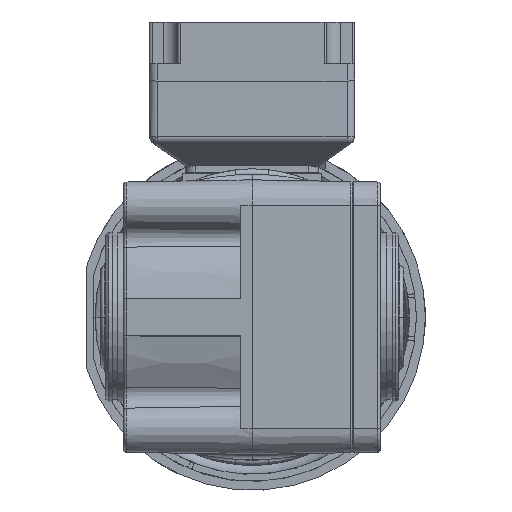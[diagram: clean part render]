
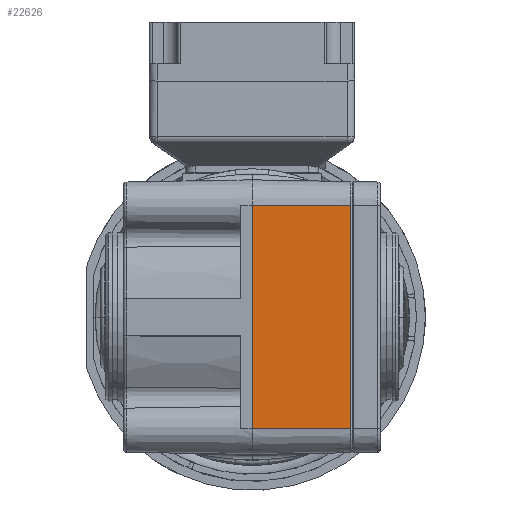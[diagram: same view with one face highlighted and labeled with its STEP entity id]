
A CAD part, front view. The second image highlights one B-rep face of the part: STEP entity #22626.
In plain terms, the highlighted planar face has unit normal (0.018, -1, 0).
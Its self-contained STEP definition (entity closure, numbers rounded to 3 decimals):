
#174 = CARTESIAN_POINT ( 'NONE',  ( 0., -237.02, 43.5 ) ) ;
#435 = LINE ( 'NONE', #46514, #23116 ) ;
#1486 = CARTESIAN_POINT ( 'NONE',  ( 0., -237.02, -43.5 ) ) ;
#5576 = CARTESIAN_POINT ( 'NONE',  ( 38.5, -236.348, -43.5 ) ) ;
#8780 = ORIENTED_EDGE ( 'NONE', *, *, #55312, .F. ) ;
#11237 = ORIENTED_EDGE ( 'NONE', *, *, #41865, .F. ) ;
#11662 = VERTEX_POINT ( 'NONE', #23047 ) ;
#14235 = CARTESIAN_POINT ( 'NONE',  ( 0., -237.02, -43.5 ) ) ;
#16636 = DIRECTION ( 'NONE',  ( 0., 0., -1. ) ) ;
#18736 = LINE ( 'NONE', #47753, #28957 ) ;
#21294 = ORIENTED_EDGE ( 'NONE', *, *, #41720, .F. ) ;
#21334 = VECTOR ( 'NONE', #16636, 1000. ) ;
#21506 = PLANE ( 'NONE',  #32402 ) ;
#22626 = ADVANCED_FACE ( 'NONE', ( #37517 ), #21506, .T. ) ;
#23047 = CARTESIAN_POINT ( 'NONE',  ( 0., -237.02, 43.5 ) ) ;
#23116 = VECTOR ( 'NONE', #30440, 1000. ) ;
#25057 = CARTESIAN_POINT ( 'NONE',  ( 38.5, -236.348, 43.5 ) ) ;
#28254 = DIRECTION ( 'NONE',  ( 1., 0.017, 0. ) ) ;
#28697 = LINE ( 'NONE', #25057, #21334 ) ;
#28957 = VECTOR ( 'NONE', #28254, 1000. ) ;
#30440 = DIRECTION ( 'NONE',  ( -1., -0.017, 0. ) ) ;
#32402 = AXIS2_PLACEMENT_3D ( 'NONE', #174, #50452, #38354 ) ;
#35633 = VERTEX_POINT ( 'NONE', #47582 ) ;
#37517 = FACE_OUTER_BOUND ( 'NONE', #41724, .T. ) ;
#38354 = DIRECTION ( 'NONE',  ( 0., 0., -1. ) ) ;
#38586 = ORIENTED_EDGE ( 'NONE', *, *, #44255, .F. ) ;
#41720 = EDGE_CURVE ( 'NONE', #48136, #41988, #435, .T. ) ;
#41724 = EDGE_LOOP ( 'NONE', ( #11237, #38586, #8780, #21294 ) ) ;
#41865 = EDGE_CURVE ( 'NONE', #35633, #48136, #28697, .T. ) ;
#41988 = VERTEX_POINT ( 'NONE', #14235 ) ;
#44255 = EDGE_CURVE ( 'NONE', #11662, #35633, #18736, .T. ) ;
#46514 = CARTESIAN_POINT ( 'NONE',  ( 38.5, -236.348, -43.5 ) ) ;
#47582 = CARTESIAN_POINT ( 'NONE',  ( 38.5, -236.348, 43.5 ) ) ;
#47753 = CARTESIAN_POINT ( 'NONE',  ( 0., -237.02, 43.5 ) ) ;
#48136 = VERTEX_POINT ( 'NONE', #5576 ) ;
#48391 = LINE ( 'NONE', #1486, #51896 ) ;
#48659 = DIRECTION ( 'NONE',  ( 0., 0., 1. ) ) ;
#50452 = DIRECTION ( 'NONE',  ( 0.017, -1., 0. ) ) ;
#51896 = VECTOR ( 'NONE', #48659, 1000. ) ;
#55312 = EDGE_CURVE ( 'NONE', #41988, #11662, #48391, .T. ) ;
